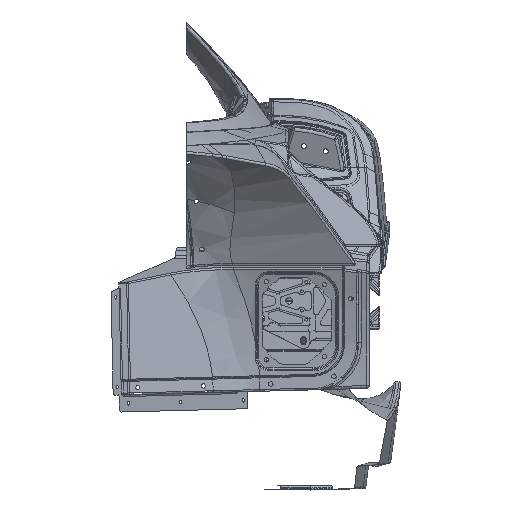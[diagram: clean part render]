
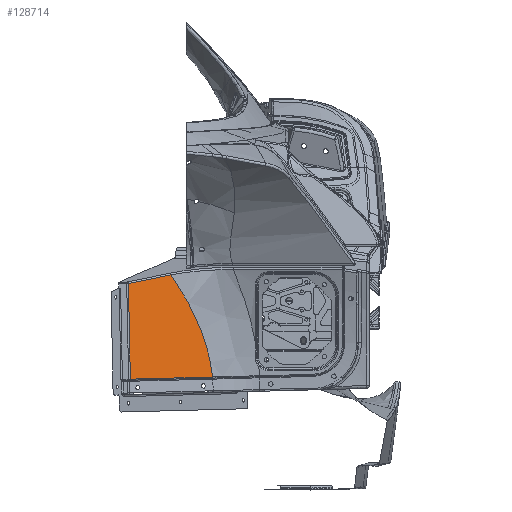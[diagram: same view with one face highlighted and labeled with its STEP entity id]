
A CAD part, left-side view. The second image highlights one B-rep face of the part: STEP entity #128714.
In plain terms, the highlighted planar face has unit normal (0.796, 0.604, -0.026).
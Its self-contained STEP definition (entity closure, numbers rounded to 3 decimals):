
#124095=CARTESIAN_POINT('',(1364.215,-643.838,298.163));
#124096=VERTEX_POINT('',#124095);
#124104=CARTESIAN_POINT('',(1366.098,-646.318,298.219));
#124105=VERTEX_POINT('',#124104);
#124106=CARTESIAN_POINT('',(1360.064,-660.174,-205.274));
#124107=DIRECTION('',(-0.796,-0.604,0.026));
#124108=DIRECTION('',(0.008,0.032,0.999));
#124109=AXIS2_PLACEMENT_3D('',#124106,#124107,#124108);
#124110=CIRCLE('',#124109,503.719);
#124111=EDGE_CURVE('',#124096,#124105,#124110,.F.);
#124177=CARTESIAN_POINT('',(1256.623,-502.252,294.456));
#124178=VERTEX_POINT('',#124177);
#124186=CARTESIAN_POINT('',(1256.623,-502.252,294.456));
#124187=DIRECTION('',(0.605,-0.796,0.021));
#124188=VECTOR('',#124187,177.866);
#124189=LINE('',#124186,#124188);
#124190=EDGE_CURVE('',#124178,#124096,#124189,.T.);
#124260=CARTESIAN_POINT('',(1256.411,-501.974,294.454));
#124261=VERTEX_POINT('',#124260);
#124269=CARTESIAN_POINT('',(1256.724,-501.856,306.674));
#124270=DIRECTION('',(-0.796,-0.604,0.026));
#124271=DIRECTION('',(-0.008,-0.032,-0.999));
#124272=AXIS2_PLACEMENT_3D('',#124269,#124270,#124271);
#124273=CIRCLE('',#124272,12.225);
#124274=EDGE_CURVE('',#124261,#124178,#124273,.T.);
#128665=CARTESIAN_POINT('',(1259.337,-498.569,462.049));
#128666=VERTEX_POINT('',#128665);
#128667=CARTESIAN_POINT('',(1259.337,-498.569,462.049));
#128668=DIRECTION('',(-0.017,-0.02,-1.));
#128669=VECTOR('',#128668,167.655);
#128670=LINE('',#128667,#128669);
#128671=EDGE_CURVE('',#128666,#124261,#128670,.T.);
#128685=CARTESIAN_POINT('',(1310.931,-573.8,294.453));
#128686=DIRECTION('',(0.796,0.604,-0.026));
#128687=DIRECTION('',(-0.033,0.0,-0.999));
#128688=AXIS2_PLACEMENT_3D('',#128685,#128686,#128687);
#128689=PLANE('',#128688);
#128690=ORIENTED_EDGE('',*,*,#128671,.F.);
#128691=CARTESIAN_POINT('',(1315.915,-572.448,477.28));
#128692=VERTEX_POINT('',#128691);
#128693=CARTESIAN_POINT('',(1315.915,-572.448,477.28));
#128694=DIRECTION('',(-0.6,0.784,-0.162));
#128695=VECTOR('',#128694,94.293);
#128696=LINE('',#128693,#128695);
#128697=EDGE_CURVE('',#128666,#128692,#128696,.F.);
#128698=ORIENTED_EDGE('',*,*,#128697,.T.);
#128699=CARTESIAN_POINT('',(1315.915,-572.448,477.28));
#128700=CARTESIAN_POINT('',(1317.804,-575.088,473.809));
#128701=CARTESIAN_POINT('',(1332.616,-595.826,445.553));
#128702=CARTESIAN_POINT('',(1352.992,-625.017,391.358));
#128703=CARTESIAN_POINT('',(1363.766,-641.843,330.583));
#128704=CARTESIAN_POINT('',(1365.828,-645.763,302.815));
#128705=CARTESIAN_POINT('',(1366.098,-646.318,298.219));
#128706=B_SPLINE_CURVE_WITH_KNOTS('',3,(#128699,#128700,#128701,#128702,#128703,#128704,#128705),.UNSPECIFIED.,.F.,.U.,(4,1,1,1,4),(122.685,143.728,291.029,396.243,417.286),.UNSPECIFIED.);
#128707=EDGE_CURVE('',#128692,#124105,#128706,.T.);
#128708=ORIENTED_EDGE('',*,*,#128707,.T.);
#128709=ORIENTED_EDGE('',*,*,#124111,.F.);
#128710=ORIENTED_EDGE('',*,*,#124190,.F.);
#128711=ORIENTED_EDGE('',*,*,#124274,.F.);
#128712=EDGE_LOOP('',(#128690,#128698,#128708,#128709,#128710,#128711));
#128713=FACE_OUTER_BOUND('',#128712,.T.);
#128714=ADVANCED_FACE('',(#128713),#128689,.T.);
